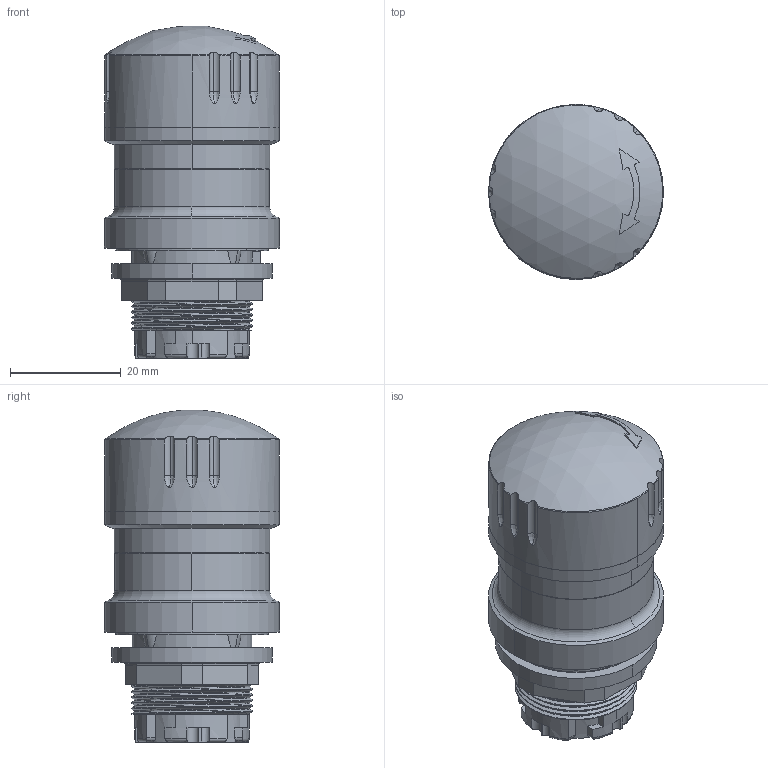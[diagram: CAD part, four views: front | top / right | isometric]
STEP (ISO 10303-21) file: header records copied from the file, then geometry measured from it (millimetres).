
FILE_DESCRIPTION((''),'2;1');
FILE_NAME('2013757_ASM','2013-10-02T',('rink'),(''),'PRO/ENGINEER BY PARAMETRIC TECHNOLOGY CORPORATION, 2011040','PRO/ENGINEER BY PARAMETRIC TECHNOLOGY CORPORATION, 2011040','');
FILE_SCHEMA(('AUTOMOTIVE_DESIGN_CC2 { 1 2 10303 214 -1 1 5 2 }'));
Length unit declared in the file: millimetre
Products named in the file (4): 2013756; 2011609; 2011610; 2013757_ASM
Assembly tree (3 placements, depth 2):
  2013757_ASM
    2013756
    2011609
    2011610
Bounding box: 31.6 x 31.6 x 59.94 mm (x, y, z)
Volume: 34627.5 mm3; surface area: 12794.9 mm2
Topology: 3 solids, 3 shells, 301 faces, 845 edges, 550 vertices
Faces by surface type: cylinder 163, plane 71, torus 32, bspline 21, cone 12, sphere 2
Entity records: 17607 total; most frequent: CARTESIAN_POINT 7287, ORIENTED_EDGE 1684, DIRECTION 1538, PRESENTATION_STYLE_ASSIGNMENT 855, STYLED_ITEM 855, CURVE_STYLE 852, EDGE_CURVE 842, AXIS2_PLACEMENT_3D 622
